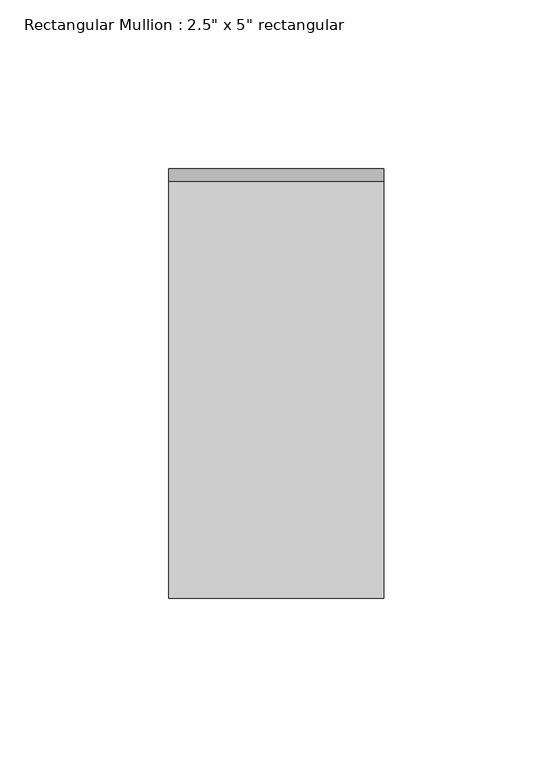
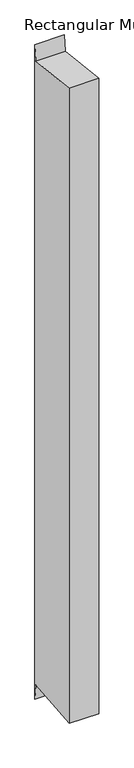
"""IFC4 building model written with IfcOpenShell, lengths in millimetres: member geometry."""

from ifc_helpers import new_model, si_unit, frame, origin, place, context, project, spatial, polyline, outline, extrude, source, transform, mapped, element, save


def member_45463520(model_context):
    return source(origin(), model_context, "Body", "SweptSolid", [
        extrude(outline(polyline([(-63.5, 6.4992311), (59.8333616, -6.4636276), (63.5, 28.422106), (63.5, -1457.3768913), (59.8333616, -1422.4911577), (-63.5, -1435.4540164), (-63.5, 6.4992311)])), frame((-63.5, 0.0, 0.0), z_axis=(1.0, 0.0, 0.0), x_axis=(0.0, 1.0, 0.0)), (0.0, 0.0, 1.0), 63.5),
    ])


if __name__ == "__main__":
    model = new_model("IFC4")
    model_context = context("Model", 3, world=origin())
    ifc_project = project(units=[si_unit("LENGTHUNIT", "METRE", prefix="MILLI")], contexts=[model_context])
    site = spatial("IfcSite", under=ifc_project)
    building = spatial("IfcBuilding", under=site)
    placement = place(None, origin())
    member_shape = member_45463520(model_context)
    element("IfcMember", 1, ObjectType="Rectangular Mullion : 2.5\" x 5\" rectangular", at=placement, inside=building, context=model_context, shape_type="MappedRepresentation", body=[
        mapped(member_shape, transform((0.0, 0.0, 0.0), x_axis=(1.0, 0.0, 0.0), y_axis=(0.0, 1.0, 0.0), z_axis=(0.0, 0.0, 1.0))),
    ])
    save(model, "model.ifc")
